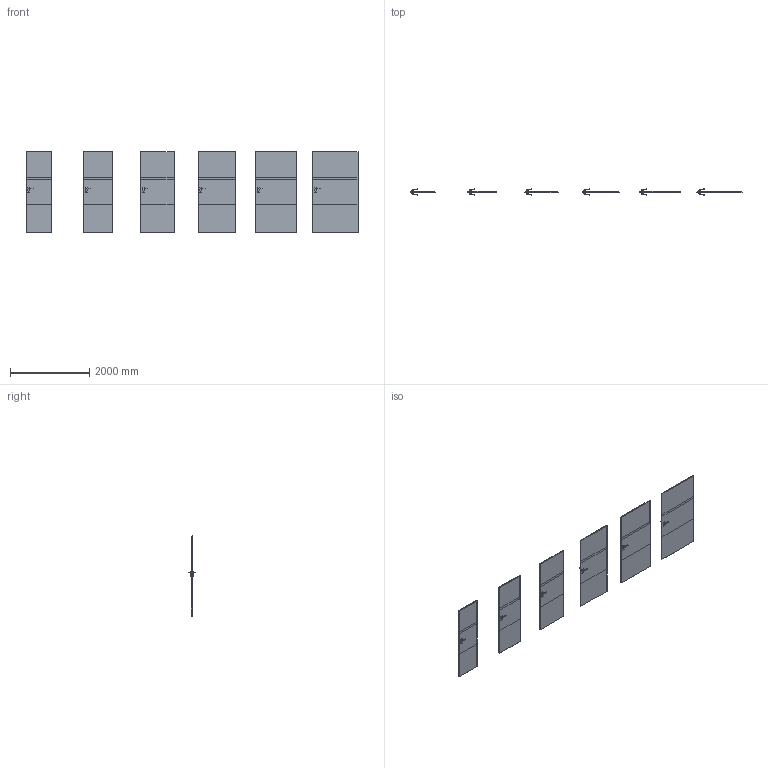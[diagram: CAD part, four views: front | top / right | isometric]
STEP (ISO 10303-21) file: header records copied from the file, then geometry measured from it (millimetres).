
FILE_DESCRIPTION(/* description */ (''),/* implementation_level */ '2;1');
FILE_NAME(/* name */ '049992_A_2-Skrzydło LEVEL model C.1_ polska norma _PN__ przylgowe..stp',/* time_stamp */ '2024-12-04T09:20:22+01:00',/* author */ (''),/* organization */ (''),/* preprocessor_version */ 'ST-DEVELOPER v16',/* originating_system */ 'SIEMENS PLM Software NX 11.0',/* authorisation */ '');
FILE_SCHEMA (('AUTOMOTIVE_DESIGN { 1 0 10303 214 3 1 1 1 }'));
Length unit declared in the file: millimetre
Products named in the file (1): bkni80F4682Ayjge
Bounding box: 8394 x 153.27 x 2030 mm (x, y, z)
Volume: 418572134.6 mm3; surface area: 25846719.8 mm2
Topology: 54 solids, 54 shells, 1224 faces, 2820 edges, 1584 vertices
Faces by surface type: plane 600, cylinder 264, bspline 192, sphere 168
Entity records: 39868 total; most frequent: CARTESIAN_POINT 13885, ORIENTED_EDGE 5304, DIRECTION 5078, EDGE_CURVE 2652, AXIS2_PLACEMENT_3D 1753, VERTEX_POINT 1584, LINE 1572, VECTOR 1572
